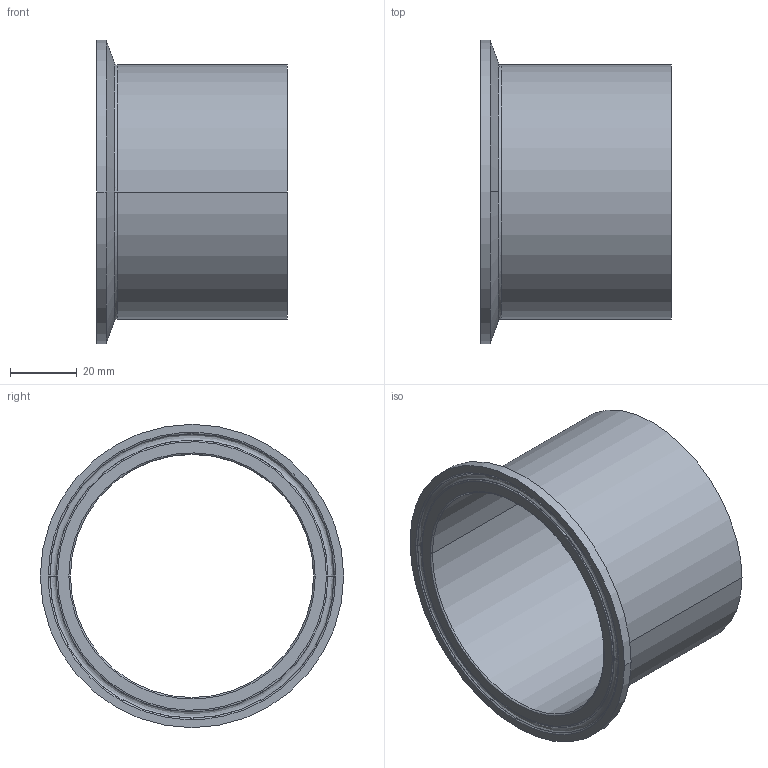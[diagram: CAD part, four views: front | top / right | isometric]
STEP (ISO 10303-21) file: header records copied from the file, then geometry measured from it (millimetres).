
FILE_DESCRIPTION (( 'STEP AP214' ), '1' );
FILE_NAME ('TEG14AM76L3.0.STEP', '2016-05-23T03:55:37', ( 'eran' ), ( '' ), 'SwSTEP 2.0', 'SolidWorks 2016', '' );
FILE_SCHEMA (( 'AUTOMOTIVE_DESIGN' ));
Length unit declared in the file: millimetre
Products named in the file (1): TEG14AM76L3.0
Bounding box: 57.2 x 90.91 x 90.91 mm (x, y, z)
Volume: 29787 mm3; surface area: 31109.2 mm2
Topology: 1 solids, 1 shells, 25 faces, 62 edges, 40 vertices
Faces by surface type: bspline 10, cylinder 6, cone 6, plane 3
Entity records: 1487 total; most frequent: CARTESIAN_POINT 862, DIRECTION 132, ORIENTED_EDGE 124, EDGE_CURVE 62, AXIS2_PLACEMENT_3D 60, CIRCLE 44, VERTEX_POINT 40, EDGE_LOOP 28
